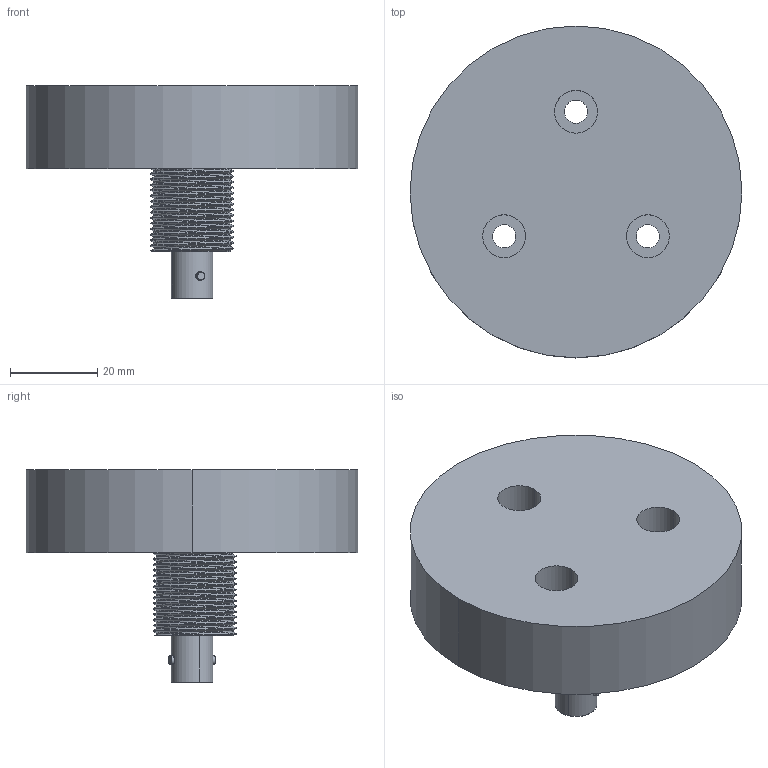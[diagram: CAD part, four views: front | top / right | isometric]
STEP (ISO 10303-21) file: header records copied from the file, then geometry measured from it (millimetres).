
FILE_DESCRIPTION (( 'STEP AP203' ), '1' );
FILE_NAME ('30U1.STEP', '2010-03-05T19:00:01', ( 'tom edwards' ), ( 'Tom J. Edwards' ), 'SwSTEP 2.0', 'SolidWorks 2008', '' );
FILE_SCHEMA (( 'CONFIG_CONTROL_DESIGN' ));
Length unit declared in the file: millimetre
Products named in the file (3): 30U1_Thread Runout; 30U1; bnc
Assembly tree (2 placements, depth 2):
  30U1
    30U1_Thread Runout
    bnc
Bounding box: 76.2 x 76.2 x 48.87 mm (x, y, z)
Volume: 90697.6 mm3; surface area: 18351.1 mm2
Topology: 3 solids, 3 shells, 102 faces, 244 edges, 160 vertices
Faces by surface type: cylinder 67, plane 19, torus 8, bspline 7, cone 1
Entity records: 8358 total; most frequent: CARTESIAN_POINT 5827, ORIENTED_EDGE 488, DIRECTION 455, EDGE_CURVE 244, AXIS2_PLACEMENT_3D 193, VERTEX_POINT 160, EDGE_LOOP 122, ADVANCED_FACE 102
